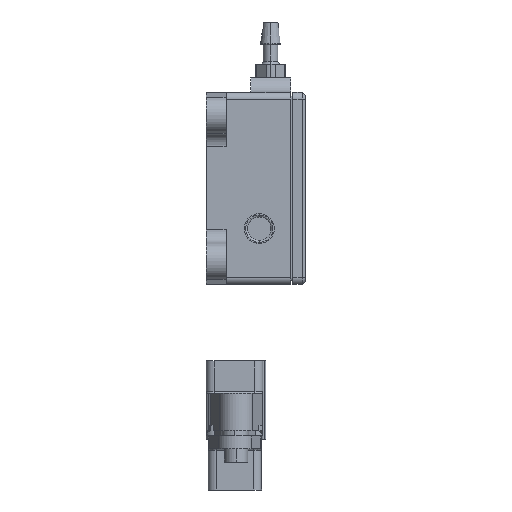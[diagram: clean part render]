
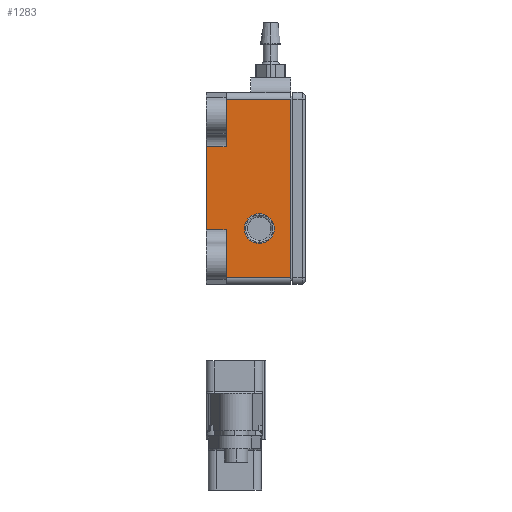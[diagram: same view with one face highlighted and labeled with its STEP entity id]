
A CAD part, left-side view. The second image highlights one B-rep face of the part: STEP entity #1283.
In plain terms, the highlighted planar face has unit normal (-1, 0, 0).
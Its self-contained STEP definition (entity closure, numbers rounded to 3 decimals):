
#21 = CARTESIAN_POINT ( 'NONE',  ( -8.25, 0., 7.1 ) ) ;
#29 = AXIS2_PLACEMENT_3D ( 'NONE', #9287, #8062, #4172 ) ;
#539 = CARTESIAN_POINT ( 'NONE',  ( -8.25, -12.7, -13.6 ) ) ;
#581 = CARTESIAN_POINT ( 'NONE',  ( -8.25, -12.7, -12.6 ) ) ;
#928 = DIRECTION ( 'NONE',  ( -1., 0., 0. ) ) ;
#1116 = CARTESIAN_POINT ( 'NONE',  ( -8.25, -8., -2.95 ) ) ;
#1283 = ADVANCED_FACE ( 'NONE', ( #1543, #10268 ), #5361, .T. ) ;
#1317 = AXIS2_PLACEMENT_3D ( 'NONE', #539, #928, #9994 ) ;
#1543 = FACE_OUTER_BOUND ( 'NONE', #2010, .T. ) ;
#1548 = CARTESIAN_POINT ( 'NONE',  ( -8.25, 0., -5.4 ) ) ;
#1784 = CARTESIAN_POINT ( 'NONE',  ( -8.25, -8., -7.45 ) ) ;
#1976 = EDGE_CURVE ( 'NONE', #7371, #4197, #6906, .T. ) ;
#2010 = EDGE_LOOP ( 'NONE', ( #8740, #6217, #4534, #7807, #2042, #12851, #4081, #6421 ) ) ;
#2042 = ORIENTED_EDGE ( 'NONE', *, *, #7892, .T. ) ;
#2091 = CARTESIAN_POINT ( 'NONE',  ( -8.25, -3., -12.6 ) ) ;
#2440 = DIRECTION ( 'NONE',  ( 0., -1., 0. ) ) ;
#2655 = CARTESIAN_POINT ( 'NONE',  ( -8.25, -8., -5.2 ) ) ;
#2842 = CARTESIAN_POINT ( 'NONE',  ( -8.25, -3., -5.4 ) ) ;
#3129 = CARTESIAN_POINT ( 'NONE',  ( -8.25, -12.7, 14.3 ) ) ;
#3330 = DIRECTION ( 'NONE',  ( 0., 0., -1. ) ) ;
#3672 = CARTESIAN_POINT ( 'NONE',  ( -8.25, -3., 14.3 ) ) ;
#3829 = LINE ( 'NONE', #5212, #4675 ) ;
#4027 = CARTESIAN_POINT ( 'NONE',  ( -8.25, -3., 7.1 ) ) ;
#4081 = ORIENTED_EDGE ( 'NONE', *, *, #4178, .T. ) ;
#4172 = DIRECTION ( 'NONE',  ( 0., 1., 0. ) ) ;
#4178 = EDGE_CURVE ( 'NONE', #5079, #4620, #12725, .T. ) ;
#4197 = VERTEX_POINT ( 'NONE', #2842 ) ;
#4443 = VECTOR ( 'NONE', #6454, 1000. ) ;
#4534 = ORIENTED_EDGE ( 'NONE', *, *, #11656, .F. ) ;
#4620 = VERTEX_POINT ( 'NONE', #3129 ) ;
#4675 = VECTOR ( 'NONE', #15973, 1000. ) ;
#5051 = CARTESIAN_POINT ( 'NONE',  ( -8.25, -12.7, -12.6 ) ) ;
#5079 = VERTEX_POINT ( 'NONE', #581 ) ;
#5212 = CARTESIAN_POINT ( 'NONE',  ( -8.25, 0., -13.6 ) ) ;
#5282 = VERTEX_POINT ( 'NONE', #8870 ) ;
#5310 = DIRECTION ( 'NONE',  ( -1., 0., 0. ) ) ;
#5345 = VERTEX_POINT ( 'NONE', #3672 ) ;
#5361 = PLANE ( 'NONE',  #1317 ) ;
#5834 = VECTOR ( 'NONE', #2440, 1000. ) ;
#6195 = VECTOR ( 'NONE', #7032, 1000. ) ;
#6207 = CIRCLE ( 'NONE', #8887, 2.25 ) ;
#6217 = ORIENTED_EDGE ( 'NONE', *, *, #11913, .T. ) ;
#6372 = VECTOR ( 'NONE', #3330, 1000. ) ;
#6421 = ORIENTED_EDGE ( 'NONE', *, *, #9683, .T. ) ;
#6454 = DIRECTION ( 'NONE',  ( 0., 1., 0. ) ) ;
#6648 = DIRECTION ( 'NONE',  ( 0., -1., 0. ) ) ;
#6906 = LINE ( 'NONE', #13828, #9405 ) ;
#7032 = DIRECTION ( 'NONE',  ( 0., 0., 1. ) ) ;
#7371 = VERTEX_POINT ( 'NONE', #1548 ) ;
#7752 = VERTEX_POINT ( 'NONE', #2091 ) ;
#7807 = ORIENTED_EDGE ( 'NONE', *, *, #1976, .T. ) ;
#7892 = EDGE_CURVE ( 'NONE', #4197, #7752, #16581, .T. ) ;
#8062 = DIRECTION ( 'NONE',  ( -1., 0., 0. ) ) ;
#8556 = EDGE_CURVE ( 'NONE', #8992, #16457, #6207, .T. ) ;
#8740 = ORIENTED_EDGE ( 'NONE', *, *, #9401, .T. ) ;
#8870 = CARTESIAN_POINT ( 'NONE',  ( -8.25, 0., 7.1 ) ) ;
#8887 = AXIS2_PLACEMENT_3D ( 'NONE', #2655, #5310, #15954 ) ;
#8992 = VERTEX_POINT ( 'NONE', #1116 ) ;
#9067 = ORIENTED_EDGE ( 'NONE', *, *, #8556, .F. ) ;
#9074 = CIRCLE ( 'NONE', #29, 2.25 ) ;
#9287 = CARTESIAN_POINT ( 'NONE',  ( -8.25, -8., -5.2 ) ) ;
#9288 = LINE ( 'NONE', #15319, #6372 ) ;
#9401 = EDGE_CURVE ( 'NONE', #5345, #12914, #9288, .T. ) ;
#9405 = VECTOR ( 'NONE', #6648, 1000. ) ;
#9410 = CARTESIAN_POINT ( 'NONE',  ( -8.25, -12.7, -13.6 ) ) ;
#9683 = EDGE_CURVE ( 'NONE', #4620, #5345, #17089, .T. ) ;
#9903 = VECTOR ( 'NONE', #16172, 1000. ) ;
#9934 = EDGE_CURVE ( 'NONE', #7752, #5079, #15398, .T. ) ;
#9994 = DIRECTION ( 'NONE',  ( 0., 1., 0. ) ) ;
#10268 = FACE_BOUND ( 'NONE', #17150, .T. ) ;
#10291 = CARTESIAN_POINT ( 'NONE',  ( -8.25, -3., -12.6 ) ) ;
#10702 = EDGE_CURVE ( 'NONE', #16457, #8992, #9074, .T. ) ;
#11115 = LINE ( 'NONE', #21, #4443 ) ;
#11656 = EDGE_CURVE ( 'NONE', #7371, #5282, #3829, .T. ) ;
#11913 = EDGE_CURVE ( 'NONE', #12914, #5282, #11115, .T. ) ;
#12725 = LINE ( 'NONE', #9410, #6195 ) ;
#12851 = ORIENTED_EDGE ( 'NONE', *, *, #9934, .T. ) ;
#12914 = VERTEX_POINT ( 'NONE', #4027 ) ;
#12980 = VECTOR ( 'NONE', #13085, 1000. ) ;
#13085 = DIRECTION ( 'NONE',  ( 0., 0., -1. ) ) ;
#13736 = ORIENTED_EDGE ( 'NONE', *, *, #10702, .F. ) ;
#13828 = CARTESIAN_POINT ( 'NONE',  ( -8.25, -3., -5.4 ) ) ;
#15319 = CARTESIAN_POINT ( 'NONE',  ( -8.25, -3., 9.1 ) ) ;
#15398 = LINE ( 'NONE', #5051, #5834 ) ;
#15954 = DIRECTION ( 'NONE',  ( 0., 1., 0. ) ) ;
#15973 = DIRECTION ( 'NONE',  ( 0., 0., 1. ) ) ;
#16172 = DIRECTION ( 'NONE',  ( 0., 1., 0. ) ) ;
#16235 = CARTESIAN_POINT ( 'NONE',  ( -8.25, -12.7, 14.3 ) ) ;
#16457 = VERTEX_POINT ( 'NONE', #1784 ) ;
#16581 = LINE ( 'NONE', #10291, #12980 ) ;
#17089 = LINE ( 'NONE', #16235, #9903 ) ;
#17150 = EDGE_LOOP ( 'NONE', ( #13736, #9067 ) ) ;
